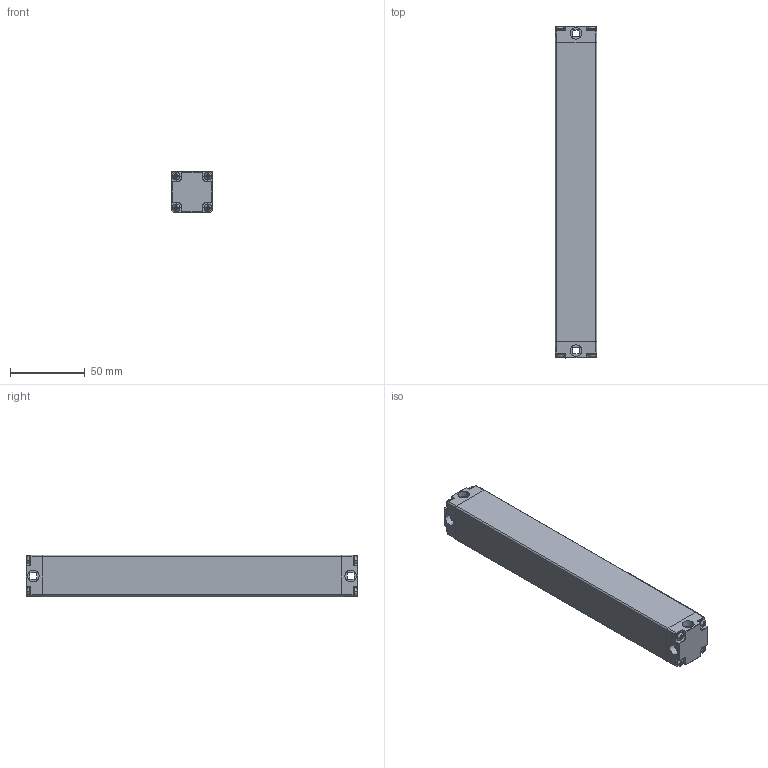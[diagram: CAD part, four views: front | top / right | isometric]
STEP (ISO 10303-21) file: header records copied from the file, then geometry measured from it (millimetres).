
FILE_DESCRIPTION((''),'2;1');
FILE_NAME('ELD00_ASM','2021-07-20T09:23:11',('18720616900'),(''),'CREO PARAMETRIC BY PTC INC, 2019010','CREO PARAMETRIC BY PTC INC, 2019010','');
FILE_SCHEMA(('CONFIG_CONTROL_DESIGN'));
Length unit declared in the file: millimetre
Products named in the file (6): ELD--00; ELD--000; ST-3-12; ELD00_ASM
Assembly tree (12 placements, depth 2):
  ELD00_ASM
    ELD--00
    ELD--000
    ELD--000
    ELD--000
    ST-3-12  x8
Bounding box: 28 x 222 x 28 mm (x, y, z)
Volume: 169796.1 mm3; surface area: 42055.2 mm2
Topology: 12 solids, 12 shells, 792 faces, 2082 edges, 1296 vertices
Faces by surface type: plane 236, cone 172, bspline 168, cylinder 156, torus 44, sphere 16
Entity records: 14414 total; most frequent: CARTESIAN_POINT 6863, ORIENTED_EDGE 1584, DIRECTION 1469, EDGE_CURVE 792, AXIS2_PLACEMENT_3D 520, VERTEX_POINT 491, VECTOR 429, LINE 429
